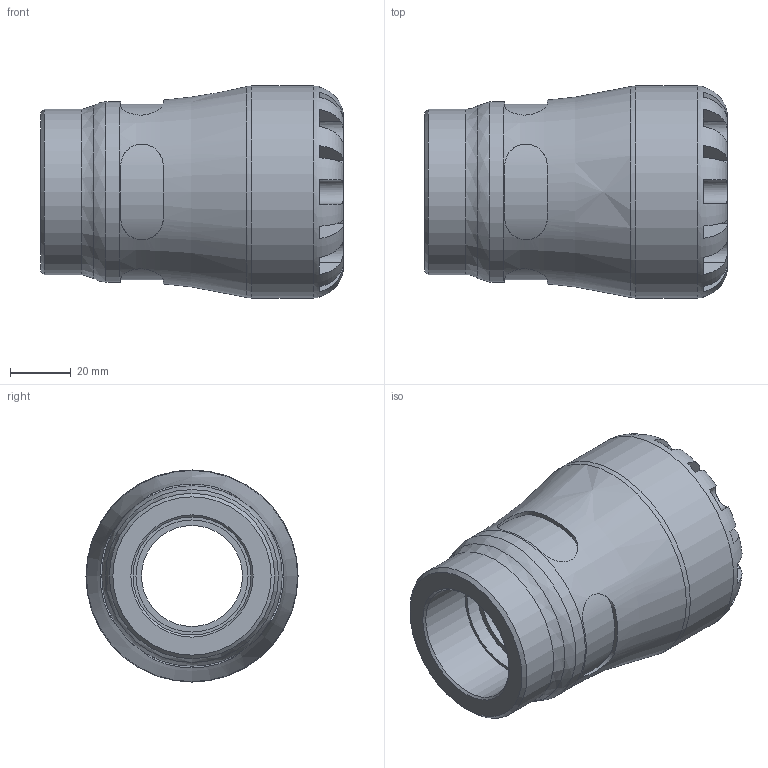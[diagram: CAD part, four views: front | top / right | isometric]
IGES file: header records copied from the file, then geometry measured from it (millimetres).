
Global section: file name: 1003G0040013_1903G0040013.ipt; native system: Autodesk Inventor 2015; preprocessor: unknown; author: KIM; date: 20190127.091357; units: millimetre
Bounding box: 100 x 70 x 70 mm (x, y, z)
Volume: 184651.1 mm3; surface area: 37974.3 mm2
Topology: 1 solids, 1 shells, 104 faces, 270 edges, 174 vertices
Faces by surface type: plane 61, revolution 27, cylinder 15, cone 1
Full cylindrical faces by diameter (mm): 54.6 x1, 59.5 x1, 70 x1
